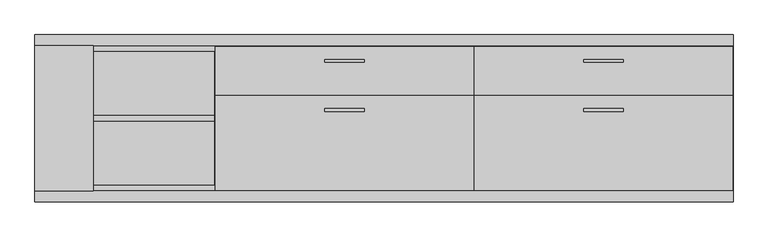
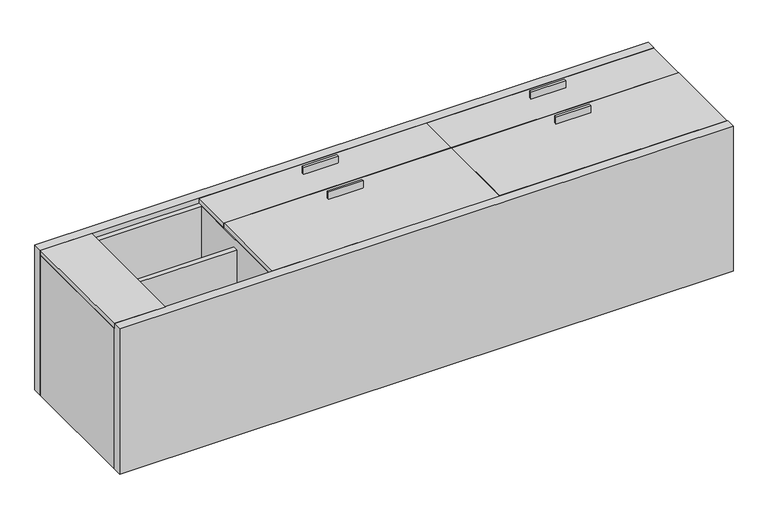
"""IFC4 building model written with IfcOpenShell, lengths in millimetres: proxy geometry, FOUNDATION^CREDENZA 96_LT SHELF FF RT-SOLID ASSEMBLY."""

import ifcopenshell
import ifcopenshell.guid

model = None  # the IFC model being written
_history = None  # IfcOwnerHistory: only IFC2X3 demands one
_inside = {}  # id of a spatial element -> (the spatial element, [elements in it])
_under = {}  # id of a project, library or spatial element -> (it, [spatial elements below it])
_declared = {}  # id of a project -> (the project, [libraries it declares])
_typed = {}  # id of a type object -> (the type object, [elements of that type])
_made_of = {}  # id of a material, layer set ... -> (it, [elements and type objects made of it])


def new_model(schema):
    """Start an empty IFC model of exactly this schema.

    Asked for "IFC4X3", IfcOpenShell would pick the latest addendum, in which some entities
    have other attributes; the version numbers below select the first issue.
    IFC2X3 requires an IfcOwnerHistory on every rooted entity: one is made here for all.
    """
    global model, _history
    if schema == "IFC4X3":
        model = ifcopenshell.file(schema_version=(4, 3, 0, 0))
    else:
        model = ifcopenshell.file(schema=schema)
    _inside.clear()
    _under.clear()
    _declared.clear()
    _typed.clear()
    _made_of.clear()
    _history = None
    if model.schema == "IFC2X3":
        org = make("IfcOrganization", Name="unknown")
        user = make(
            "IfcPersonAndOrganization",
            ThePerson=make("IfcPerson", FamilyName="unknown"),
            TheOrganization=org,
        )
        app = make(
            "IfcApplication",
            ApplicationDeveloper=org,
            Version="unknown",
            ApplicationFullName="unknown",
            ApplicationIdentifier="unknown",
        )
        _history = make(
            "IfcOwnerHistory",
            OwningUser=user,
            OwningApplication=app,
            ChangeAction="ADDED",
            CreationDate=0,
        )
    return model


def make(cls, **values):
    """One entity of the class cls with the attributes given. An attribute that is None is left unset."""
    return model.create_entity(
        cls, **{name: value for name, value in values.items() if value is not None}
    )


def rooted(cls, **values):
    """An entity with a GlobalId (a new one), such as an element, a storey or a relation."""
    return make(cls, GlobalId=ifcopenshell.guid.new(), OwnerHistory=_history, **values)


def si_unit(unit_type, name, prefix=None):
    """IfcSIUnit, for example si_unit("LENGTHUNIT", "METRE", prefix="MILLI")."""
    return make("IfcSIUnit", UnitType=unit_type, Prefix=prefix, Name=name)


def assignment(units):
    """IfcUnitAssignment: the units of a project."""
    return None if units is None else make("IfcUnitAssignment", Units=units)


def point(xyz):
    """IfcCartesianPoint."""
    return None if xyz is None else make("IfcCartesianPoint", Coordinates=xyz)


def direction(xyz):
    """IfcDirection."""
    return None if xyz is None else make("IfcDirection", DirectionRatios=xyz)


def frame(location, z_axis=None, x_axis=None):
    """IfcAxis2Placement3D, a coordinate frame: its origin and axes. An axis left out is left unset."""
    return make(
        "IfcAxis2Placement3D",
        Location=point(location),
        Axis=direction(z_axis),
        RefDirection=direction(x_axis),
    )


def origin():
    """The frame at (0, 0, 0) with its axes left unset."""
    return frame((0.0, 0.0, 0.0))


def origin_with_axes():
    """The frame at (0, 0, 0) with the z axis (0, 0, 1) and the x axis (1, 0, 0) written out."""
    return frame((0.0, 0.0, 0.0), z_axis=(0.0, 0.0, 1.0), x_axis=(1.0, 0.0, 0.0))


def place(relative_to, where):
    """IfcLocalPlacement: puts the frame where relative to a parent placement (None: the world)."""
    return make(
        "IfcLocalPlacement", PlacementRelTo=relative_to, RelativePlacement=where
    )


def context(
    kind, dimensions, precision=None, world=None, true_north=None, identifier=None
):
    """IfcGeometricRepresentationContext, for example the 3D "Model" context."""
    return make(
        "IfcGeometricRepresentationContext",
        ContextIdentifier=identifier,
        ContextType=kind,
        CoordinateSpaceDimension=dimensions,
        Precision=precision,
        WorldCoordinateSystem=world,
        TrueNorth=true_north,
    )


def project(units=None, contexts=None):
    """IfcProject with its units and contexts."""
    return rooted(
        "IfcProject",
        Name="project",
        RepresentationContexts=contexts,
        UnitsInContext=assignment(units),
    )


def spatial(cls, under=None, at=None, **own):
    """A site, building, storey or space (cls), placed at a placement, below another one or the project."""
    s = rooted(cls, ObjectPlacement=at, **own)
    if under is not None:
        _under.setdefault(under.id(), (under, []))[1].append(s)
    return s


def polyline(points):
    """IfcPolyline through the points."""
    return make("IfcPolyline", Points=[point(p) for p in points])


def outline(outer, holes=None, kind="AREA"):
    """IfcArbitraryClosedProfileDef: a profile drawn as a closed curve; with holes, ...WithVoids."""
    if holes is None:
        return make("IfcArbitraryClosedProfileDef", ProfileType=kind, OuterCurve=outer)
    return make(
        "IfcArbitraryProfileDefWithVoids",
        ProfileType=kind,
        OuterCurve=outer,
        InnerCurves=holes,
    )


def extrude(swept, where, along, depth):
    """IfcExtrudedAreaSolid: the profile swept, set in the frame where, extruded along a direction by depth."""
    return make(
        "IfcExtrudedAreaSolid",
        SweptArea=swept,
        Position=where,
        ExtrudedDirection=direction(along),
        Depth=depth,
    )


def shape(context_of_items, identifier, shape_type, items):
    """IfcShapeRepresentation: the items that make up one representation, for example the "Body"."""
    return make(
        "IfcShapeRepresentation",
        ContextOfItems=context_of_items,
        RepresentationIdentifier=identifier,
        RepresentationType=shape_type,
        Items=items,
    )


def source(mapping_origin, context_of_items, identifier, shape_type, items):
    """IfcRepresentationMap: a shape defined once, which mapped items show again and again."""
    return make(
        "IfcRepresentationMap",
        MappingOrigin=mapping_origin,
        MappedRepresentation=shape(context_of_items, identifier, shape_type, items),
    )


def transform(
    local_origin,
    x_axis=None,
    y_axis=None,
    z_axis=None,
    scale=None,
    scale2=None,
    scale3=None,
    uniform=True,
):
    """IfcCartesianTransformationOperator3D, or its non-uniform kind. x_axis, y_axis, z_axis: its Axis1, 2, 3."""
    if uniform:
        return make(
            "IfcCartesianTransformationOperator3D",
            Axis1=direction(x_axis),
            Axis2=direction(y_axis),
            LocalOrigin=point(local_origin),
            Scale=scale,
            Axis3=direction(z_axis),
        )
    return make(
        "IfcCartesianTransformationOperator3DnonUniform",
        Axis1=direction(x_axis),
        Axis2=direction(y_axis),
        LocalOrigin=point(local_origin),
        Scale=scale,
        Axis3=direction(z_axis),
        Scale2=scale2,
        Scale3=scale3,
    )


def mapped(mapping_source, mapping_target):
    """IfcMappedItem: shows the shape of a source again, moved by a transform."""
    return make(
        "IfcMappedItem", MappingSource=mapping_source, MappingTarget=mapping_target
    )


def made_of(thing, what):
    """Note that an element or type object is made of a material, layer set ...; save() writes the relation."""
    if what is not None:
        _made_of.setdefault(what.id(), (what, []))[1].append(thing)
    return thing


def element(
    cls,
    number,
    at=None,
    inside=None,
    cuts=None,
    type_object=None,
    material=None,
    context=None,
    identifier="Body",
    shape_type=None,
    held_by="IfcProductDefinitionShape",
    body=None,
    shapes=None,
    **own,
):
    """One element of the class cls, such as IfcWall. Its Tag is "e" and its number.

    at: its placement. inside: the storey or other place that contains it. cuts: it is an
    opening in that element (IfcRelVoidsElement). A single representation is given by context,
    identifier, shape_type and body (its items); several are given by shapes. held_by: the class
    of the entity that holds the representations. save() writes the other relations.
    """
    e = rooted(cls, Tag="e%d" % number, ObjectPlacement=at, **own)
    if body is not None:
        shapes = [shape(context, identifier, shape_type, body)]
    if shapes is not None:
        e.Representation = make(held_by, Representations=shapes)
    if inside is not None:
        _inside.setdefault(inside.id(), (inside, []))[1].append(e)
    if cuts is not None:
        rooted(
            "IfcRelVoidsElement", RelatingBuildingElement=cuts, RelatedOpeningElement=e
        )
    if type_object is not None:
        _typed.setdefault(type_object.id(), (type_object, []))[1].append(e)
    return made_of(e, material)


def aggregate(whole, parts):
    """IfcRelAggregates: a whole, such as a stair, and the parts it consists of."""
    return rooted("IfcRelAggregates", RelatingObject=whole, RelatedObjects=parts)


def save(model, path):
    """Write the relations noted so far, then the file.

    IfcRelAggregates (storeys below a building ...), IfcRelContainedInSpatialStructure (elements
    in a storey), IfcRelDefinesByType, IfcRelAssociatesMaterial and IfcRelDeclares: one each for
    every whole, place, type object, material and project.
    """
    for whole, parts in _under.values():
        aggregate(whole, parts)
    for where, things in _inside.values():
        rooted(
            "IfcRelContainedInSpatialStructure",
            RelatedElements=things,
            RelatingStructure=where,
        )
    for kind, things in _typed.values():
        rooted("IfcRelDefinesByType", RelatedObjects=things, RelatingType=kind)
    for what, things in _made_of.values():
        rooted("IfcRelAssociatesMaterial", RelatedObjects=things, RelatingMaterial=what)
    for by, libraries in _declared.values():
        rooted("IfcRelDeclares", RelatingContext=by, RelatedDefinitions=libraries)
    model.write(path)


def generic_models_ff502a20(model_context):
    return source(origin(), model_context, "Body", "SweptSolid", [
        extrude(outline(polyline([(1150.3421875, 315.9125), (1012.2296875, 315.9125), (1012.2296875, 325.4375), (1150.3421875, 325.4375), (1150.3421875, 315.9125)])), frame((0.0, 0.0, 609.6), z_axis=(0.0, 0.0, 1.0), x_axis=(1.0, 0.0, 0.0)), (0.0, 0.0, 1.0), 30.1625),
        extrude(outline(polyline([(2054.8203125, 315.9125), (1916.7078125, 315.9125), (1916.7078125, 325.4375), (2054.8203125, 325.4375), (2054.8203125, 315.9125)])), frame((0.0, 0.0, 609.6), z_axis=(0.0, 0.0, 1.0), x_axis=(1.0, 0.0, 0.0)), (0.0, 0.0, 1.0), 30.1625),
        extrude(outline(polyline([(2054.8203125, 488.15625), (1916.7078125, 488.15625), (1916.7078125, 497.68125), (2054.8203125, 497.68125), (2054.8203125, 488.15625)])), frame((0.0, 0.0, 609.6), z_axis=(0.0, 0.0, 1.0), x_axis=(1.0, 0.0, 0.0)), (0.0, 0.0, 1.0), 30.1625),
        extrude(outline(polyline([(630.2375, 40.48125), (630.2375, 371.475), (1532.334375, 371.475), (1532.334375, 40.48125), (630.2375, 40.48125)])), frame((0.0, 0.0, 590.55), z_axis=(0.0, 0.0, 1.0), x_axis=(1.0, 0.0, 0.0)), (0.0, 0.0, 1.0), 19.05),
        extrude(outline(polyline([(203.2, 38.1), (0.0, 38.1), (0.0, 546.1), (203.2, 546.1), (203.2, 38.1)])), frame((0.0, 0.0, 590.55), z_axis=(0.0, 0.0, 1.0), x_axis=(1.0, 0.0, 0.0)), (0.0, 0.0, 1.0), 19.05),
        extrude(outline(polyline([(627.85625, 282.575), (203.99375, 282.575), (203.99375, 301.625), (627.85625, 301.625), (627.85625, 282.575)])), frame((0.0, 0.0, 19.05), z_axis=(0.0, 0.0, 1.0), x_axis=(1.0, 0.0, 0.0)), (0.0, 0.0, 1.0), 533.4),
        extrude(outline(polyline([(0.0, 38.1), (2438.4, 38.1), (2438.4, 0.0), (0.0, 0.0), (0.0, 38.1)])), origin_with_axes(), (0.0, 0.0, 1.0), 609.6),
        extrude(outline(polyline([(184.15, 527.05), (203.2, 527.05), (203.2, 57.15), (184.15, 57.15), (184.15, 527.05)])), frame((0.0, 0.0, 19.05), z_axis=(0.0, 0.0, 1.0), x_axis=(1.0, 0.0, 0.0)), (0.0, 0.0, 1.0), 571.5),
        extrude(outline(polyline([(19.05, 527.05), (19.05, 546.1), (2419.35, 546.1), (2419.35, 527.05), (19.05, 527.05)])), frame((0.0, 0.0, 19.05), z_axis=(0.0, 0.0, 1.0), x_axis=(1.0, 0.0, 0.0)), (0.0, 0.0, 1.0), 568.325),
        extrude(outline(polyline([(2436.8125, 371.475), (2436.8125, 40.48125), (1534.715625, 40.48125), (1534.715625, 371.475), (2436.8125, 371.475)])), frame((0.0, 0.0, 590.55), z_axis=(0.0, 0.0, 1.0), x_axis=(1.0, 0.0, 0.0)), (0.0, 0.0, 1.0), 19.05),
        extrude(outline(polyline([(2419.35, 57.15), (2419.35, 38.1), (19.05, 38.1), (19.05, 57.15), (2419.35, 57.15)])), frame((0.0, 0.0, 19.05), z_axis=(0.0, 0.0, 1.0), x_axis=(1.0, 0.0, 0.0)), (0.0, 0.0, 1.0), 571.5),
        extrude(outline(polyline([(2419.35, 38.1), (19.05, 38.1), (19.05, 546.1), (2419.35, 546.1), (2419.35, 38.1)])), origin_with_axes(), (0.0, 0.0, 1.0), 19.05),
        extrude(outline(polyline([(2438.4, 38.1), (2419.35, 38.1), (2419.35, 546.1), (2438.4, 546.1), (2438.4, 38.1)])), origin_with_axes(), (0.0, 0.0, 1.0), 587.375),
        extrude(outline(polyline([(2436.8125, 373.85625), (1534.715625, 373.85625), (1534.715625, 543.71875), (2436.8125, 543.71875), (2436.8125, 373.85625)])), frame((0.0, 0.0, 590.55), z_axis=(0.0, 0.0, 1.0), x_axis=(1.0, 0.0, 0.0)), (0.0, 0.0, 1.0), 19.05),
        extrude(outline(polyline([(2438.4, 546.1), (0.0, 546.1), (0.0, 584.2), (2438.4, 584.2), (2438.4, 546.1)])), origin_with_axes(), (0.0, 0.0, 1.0), 609.6),
        extrude(outline(polyline([(1532.334375, 373.85625), (630.2375, 373.85625), (630.2375, 543.71875), (1532.334375, 543.71875), (1532.334375, 373.85625)])), frame((0.0, 0.0, 590.55), z_axis=(0.0, 0.0, 1.0), x_axis=(1.0, 0.0, 0.0)), (0.0, 0.0, 1.0), 19.05),
        extrude(outline(polyline([(0.0, 546.1), (19.05, 546.1), (19.05, 38.1), (0.0, 38.1), (0.0, 546.1)])), origin_with_axes(), (0.0, 0.0, 1.0), 590.55),
        extrude(outline(polyline([(628.65, 527.05), (647.7, 527.05), (647.7, 57.15), (628.65, 57.15), (628.65, 527.05)])), frame((0.0, 0.0, 19.05), z_axis=(0.0, 0.0, 1.0), x_axis=(1.0, 0.0, 0.0)), (0.0, 0.0, 1.0), 568.325),
        extrude(outline(polyline([(1150.3421875, 488.15625), (1012.2296875, 488.15625), (1012.2296875, 497.68125), (1150.3421875, 497.68125), (1150.3421875, 488.15625)])), frame((0.0, 0.0, 609.6), z_axis=(0.0, 0.0, 1.0), x_axis=(1.0, 0.0, 0.0)), (0.0, 0.0, 1.0), 30.1625),
    ])


if __name__ == "__main__":
    model = new_model("IFC4")
    model_context = context("Model", 3, world=origin())
    ifc_project = project(units=[si_unit("LENGTHUNIT", "METRE", prefix="MILLI")], contexts=[model_context])
    site = spatial("IfcSite", under=ifc_project)
    building = spatial("IfcBuilding", under=site)
    placement = place(None, origin())
    generic_models_shape = generic_models_ff502a20(model_context)
    element("IfcBuildingElementProxy", 1, Name="FOUNDATION^CREDENZA 96_LT SHELF FF RT-SOLID ASSEMBLY", ObjectType="FOUNDATION^CREDENZA 96_LT SHELF FF RT-SOLID ASSEMBLY", at=placement, inside=building, context=model_context, shape_type="MappedRepresentation", body=[
        mapped(generic_models_shape, transform((0.0, 0.0, 0.0), x_axis=(1.0, 0.0, 0.0), y_axis=(0.0, 1.0, 0.0), z_axis=(0.0, 0.0, 1.0))),
    ])
    save(model, "model.ifc")
